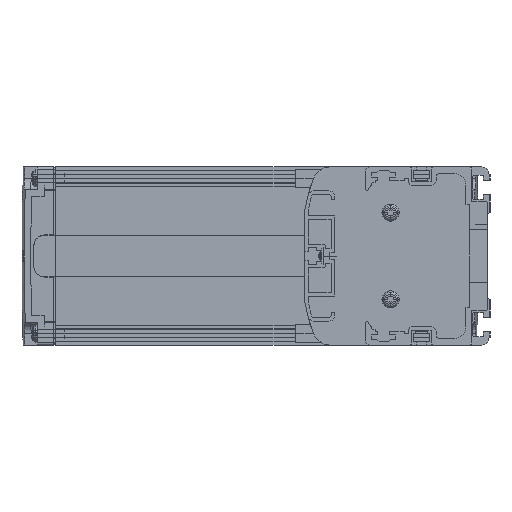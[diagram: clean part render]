
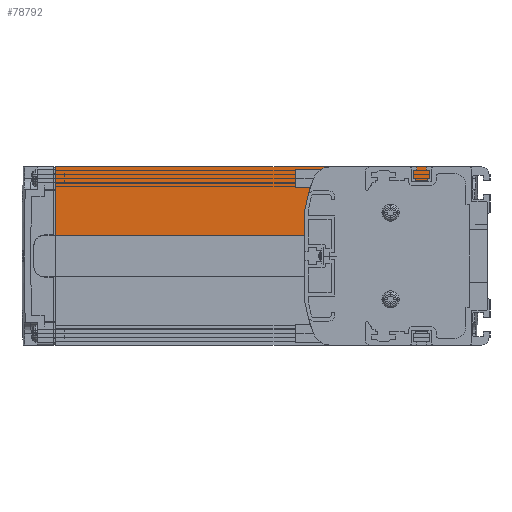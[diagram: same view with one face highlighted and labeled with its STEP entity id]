
A CAD part, left-side view. The second image highlights one B-rep face of the part: STEP entity #78792.
In plain terms, the highlighted planar face has unit normal (-1, 0, 0).
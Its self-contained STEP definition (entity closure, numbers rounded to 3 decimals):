
#76733=DIRECTION('',(0.,-1.,0.));
#76734=VECTOR('',#76733,51.);
#76735=CARTESIAN_POINT('',(3.,71.,27.));
#76736=LINE('',#76735,#76734);
#77382=DIRECTION('',(0.,-1.,0.));
#77383=VECTOR('',#77382,170.);
#77384=CARTESIAN_POINT('',(3.,190.,39.));
#77385=LINE('',#77384,#77383);
#77400=DIRECTION('',(0.,0.,-1.));
#77401=VECTOR('',#77400,29.9);
#77402=CARTESIAN_POINT('',(3.,190.,39.));
#77403=LINE('',#77402,#77401);
#77404=DIRECTION('',(0.,0.,1.));
#77405=VECTOR('',#77404,12.);
#77406=CARTESIAN_POINT('',(3.,20.,27.));
#77407=LINE('',#77406,#77405);
#77408=DIRECTION('',(0.,0.,1.));
#77409=VECTOR('',#77408,17.9);
#77410=CARTESIAN_POINT('',(3.,71.,9.1));
#77411=LINE('',#77410,#77409);
#77518=DIRECTION('',(0.,-1.,0.));
#77519=VECTOR('',#77518,119.);
#77520=CARTESIAN_POINT('',(3.,190.,9.1));
#77521=LINE('',#77520,#77519);
#77605=CARTESIAN_POINT('',(3.,20.,27.));
#77607=VERTEX_POINT('',#77605);
#77699=CARTESIAN_POINT('',(3.,20.,39.));
#77700=VERTEX_POINT('',#77699);
#77773=CARTESIAN_POINT('',(3.,190.,39.));
#77774=VERTEX_POINT('',#77773);
#77775=CARTESIAN_POINT('',(3.,190.,9.1));
#77776=VERTEX_POINT('',#77775);
#77837=CARTESIAN_POINT('',(3.,71.,27.));
#77838=VERTEX_POINT('',#77837);
#77839=CARTESIAN_POINT('',(3.,71.,9.1));
#77840=VERTEX_POINT('',#77839);
#78777=CARTESIAN_POINT('',(3.,105.,24.05));
#78778=DIRECTION('',(1.,0.,0.));
#78779=DIRECTION('',(0.,0.,1.));
#78780=AXIS2_PLACEMENT_3D('',#78777,#78778,#78779);
#78781=PLANE('',#78780);
#78782=ORIENTED_EDGE('',*,*,#78023,.F.);
#78784=ORIENTED_EDGE('',*,*,#78783,.F.);
#78786=ORIENTED_EDGE('',*,*,#78785,.F.);
#78787=ORIENTED_EDGE('',*,*,#78351,.F.);
#78788=ORIENTED_EDGE('',*,*,#78765,.T.);
#78789=ORIENTED_EDGE('',*,*,#77892,.F.);
#78790=EDGE_LOOP('',(#78782,#78784,#78786,#78787,#78788,#78789));
#78791=FACE_OUTER_BOUND('',#78790,.F.);
#78792=ADVANCED_FACE('',(#78791),#78781,.F.);
#77892=EDGE_CURVE('',#77607,#77700,#77407,.T.);
#78023=EDGE_CURVE('',#77838,#77607,#76736,.T.);
#78351=EDGE_CURVE('',#77774,#77776,#77403,.T.);
#78765=EDGE_CURVE('',#77774,#77700,#77385,.T.);
#78783=EDGE_CURVE('',#77840,#77838,#77411,.T.);
#78785=EDGE_CURVE('',#77776,#77840,#77521,.T.);
